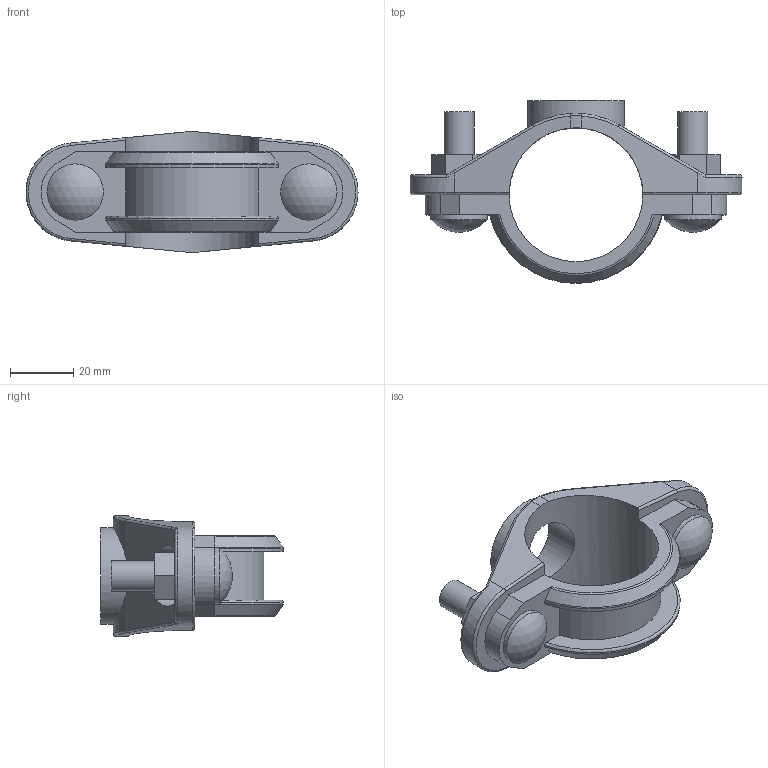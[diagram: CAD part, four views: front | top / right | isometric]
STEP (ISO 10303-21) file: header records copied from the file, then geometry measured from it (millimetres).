
FILE_DESCRIPTION(/* description */ ('Victaulic FireLock Low-Profile Sprinkler-Tee Style 912','CAx-IF Rec.Pracs.---Representation and Presentation of Product Manufacturing Information (PMI)---4.0---2014-10-13'),/* implementation_level */ '2;1');
FILE_NAME(/* name */ 'C:\Users\Vjadhav\AppData\Roaming\Autodesk\ApplicationPlugins\Back Up\Victaulic_FP-FireLock_Tee Low-Profile Sprinkler_Style 912 (OGSxFBSPP)\Victaulic_FP-FireLock_Tee Low-Profile Sprinkler_Style 912 (OGSxFBSPP)_01.25x0.50 (32x15).stp',/* time_stamp */ '2020-07-20T12:44:00+05:00',/* author */ ('kkamble'),/* organization */ ('Victaulic'),/* preprocessor_version */ 'ST-DEVELOPER v17.2',/* originating_system */ 'Autodesk Inventor 2019',/* authorisation */ '');
FILE_SCHEMA (('AP242_MANAGED_MODEL_BASED_3D_ENGINEERING_MIM_LF { 1 0 10303 442 1 1 4 }'));
Length unit declared in the file: inch
Products named in the file (1): 912-01.25x0.5
Bounding box: 104.65 x 57.66 x 38.1 mm (x, y, z)
Volume: 42477.9 mm3; surface area: 19881.6 mm2
Topology: 1 solids, 3 shells, 101 faces, 286 edges, 187 vertices
Faces by surface type: plane 45, cylinder 34, bspline 10, torus 8, cone 2, sphere 2
Full cylindrical faces by diameter (mm): 9.55 x4, 17.78 x2, 21.336 x1, 30.48 x1, 42.164 x1
Entity records: 3981 total; most frequent: CARTESIAN_POINT 1100, DIRECTION 575, ORIENTED_EDGE 572, EDGE_CURVE 286, AXIS2_PLACEMENT_3D 218, VERTEX_POINT 187, LINE 139, VECTOR 139
